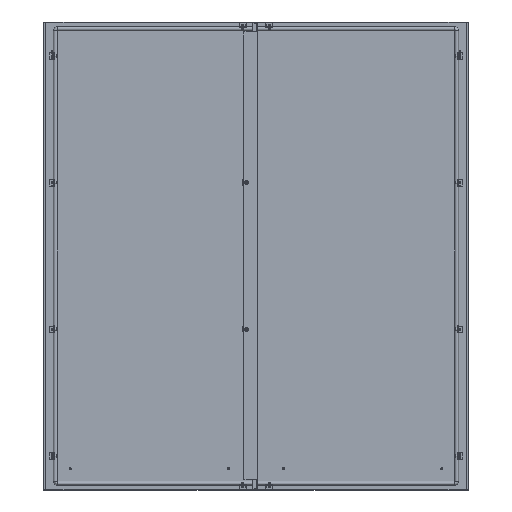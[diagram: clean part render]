
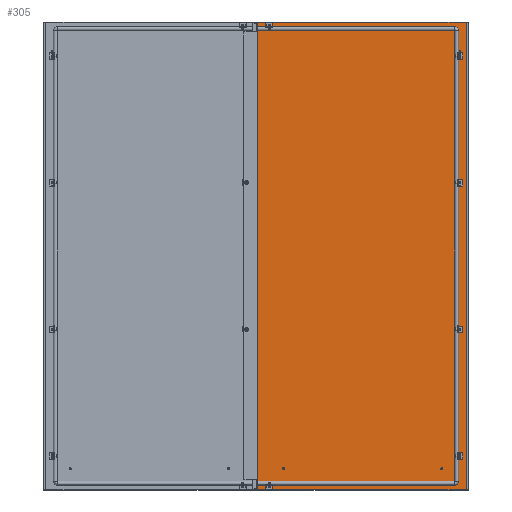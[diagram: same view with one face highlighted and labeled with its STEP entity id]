
A CAD part, top view. The second image highlights one B-rep face of the part: STEP entity #305.
In plain terms, the highlighted planar face has unit normal (0, 0, 1) as drawn and (0, 0, -1) by its records, which use the part's own axes.
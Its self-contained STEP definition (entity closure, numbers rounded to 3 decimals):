
#305 = ADVANCED_FACE('',(#306,#317,#328,#339,#350,#361,#372),#470,.T.);
#306 = FACE_BOUND('',#307,.T.);
#307 = EDGE_LOOP('',(#308));
#308 = ORIENTED_EDGE('',*,*,#309,.T.);
#309 = EDGE_CURVE('',#310,#310,#312,.T.);
#310 = VERTEX_POINT('',#311);
#311 = CARTESIAN_POINT('',(369.25,-750.,-1.5));
#312 = CIRCLE('',#313,4.75);
#313 = AXIS2_PLACEMENT_3D('',#314,#315,#316);
#314 = CARTESIAN_POINT('',(364.5,-750.,-1.5));
#315 = DIRECTION('',(0.,0.,1.));
#316 = DIRECTION('',(1.,0.,-0.));
#317 = FACE_BOUND('',#318,.T.);
#318 = EDGE_LOOP('',(#319));
#319 = ORIENTED_EDGE('',*,*,#320,.T.);
#320 = EDGE_CURVE('',#321,#321,#323,.T.);
#321 = VERTEX_POINT('',#322);
#322 = CARTESIAN_POINT('',(369.25,-275.,-1.5));
#323 = CIRCLE('',#324,4.75);
#324 = AXIS2_PLACEMENT_3D('',#325,#326,#327);
#325 = CARTESIAN_POINT('',(364.5,-275.,-1.5));
#326 = DIRECTION('',(0.,0.,1.));
#327 = DIRECTION('',(1.,0.,-0.));
#328 = FACE_BOUND('',#329,.T.);
#329 = EDGE_LOOP('',(#330));
#330 = ORIENTED_EDGE('',*,*,#331,.F.);
#331 = EDGE_CURVE('',#332,#332,#334,.T.);
#332 = VERTEX_POINT('',#333);
#333 = CARTESIAN_POINT('',(369.25,750.,-1.5));
#334 = CIRCLE('',#335,4.75);
#335 = AXIS2_PLACEMENT_3D('',#336,#337,#338);
#336 = CARTESIAN_POINT('',(364.5,750.,-1.5));
#337 = DIRECTION('',(0.,0.,-1.));
#338 = DIRECTION('',(1.,0.,0.));
#339 = FACE_BOUND('',#340,.T.);
#340 = EDGE_LOOP('',(#341));
#341 = ORIENTED_EDGE('',*,*,#342,.F.);
#342 = EDGE_CURVE('',#343,#343,#345,.T.);
#343 = VERTEX_POINT('',#344);
#344 = CARTESIAN_POINT('',(369.25,275.,-1.5));
#345 = CIRCLE('',#346,4.75);
#346 = AXIS2_PLACEMENT_3D('',#347,#348,#349);
#347 = CARTESIAN_POINT('',(364.5,275.,-1.5));
#348 = DIRECTION('',(0.,0.,-1.));
#349 = DIRECTION('',(1.,0.,0.));
#350 = FACE_BOUND('',#351,.T.);
#351 = EDGE_LOOP('',(#352));
#352 = ORIENTED_EDGE('',*,*,#353,.T.);
#353 = EDGE_CURVE('',#354,#354,#356,.T.);
#354 = VERTEX_POINT('',#355);
#355 = CARTESIAN_POINT('',(-354.75,864.5,-1.5));
#356 = CIRCLE('',#357,4.75);
#357 = AXIS2_PLACEMENT_3D('',#358,#359,#360);
#358 = CARTESIAN_POINT('',(-350.,864.5,-1.5));
#359 = DIRECTION('',(0.,0.,1.));
#360 = DIRECTION('',(-1.,0.,0.));
#361 = FACE_BOUND('',#362,.T.);
#362 = EDGE_LOOP('',(#363));
#363 = ORIENTED_EDGE('',*,*,#364,.T.);
#364 = EDGE_CURVE('',#365,#365,#367,.T.);
#365 = VERTEX_POINT('',#366);
#366 = CARTESIAN_POINT('',(-345.25,-864.5,-1.5));
#367 = CIRCLE('',#368,4.75);
#368 = AXIS2_PLACEMENT_3D('',#369,#370,#371);
#369 = CARTESIAN_POINT('',(-350.,-864.5,-1.5));
#370 = DIRECTION('',(0.,0.,1.));
#371 = DIRECTION('',(1.,0.,-0.));
#372 = FACE_BOUND('',#373,.T.);
#373 = EDGE_LOOP('',(#374,#384,#392,#400,#408,#416,#424,#432,#440,#448,
    #456,#464));
#374 = ORIENTED_EDGE('',*,*,#375,.F.);
#375 = EDGE_CURVE('',#376,#378,#380,.T.);
#376 = VERTEX_POINT('',#377);
#377 = CARTESIAN_POINT('',(-395.3,-876.,-1.5));
#378 = VERTEX_POINT('',#379);
#379 = CARTESIAN_POINT('',(395.3,-876.,-1.5));
#380 = LINE('',#381,#382);
#381 = CARTESIAN_POINT('',(0.,-876.,-1.5));
#382 = VECTOR('',#383,1.);
#383 = DIRECTION('',(1.,0.,0.));
#384 = ORIENTED_EDGE('',*,*,#385,.F.);
#385 = EDGE_CURVE('',#386,#376,#388,.T.);
#386 = VERTEX_POINT('',#387);
#387 = CARTESIAN_POINT('',(-395.3,-877.5,-1.5));
#388 = LINE('',#389,#390);
#389 = CARTESIAN_POINT('',(-395.3,0.,-1.5));
#390 = VECTOR('',#391,1.);
#391 = DIRECTION('',(0.,1.,0.));
#392 = ORIENTED_EDGE('',*,*,#393,.F.);
#393 = EDGE_CURVE('',#394,#386,#396,.T.);
#394 = VERTEX_POINT('',#395);
#395 = CARTESIAN_POINT('',(-395.5,-877.5,-1.5));
#396 = LINE('',#397,#398);
#397 = CARTESIAN_POINT('',(0.,-877.5,-1.5));
#398 = VECTOR('',#399,1.);
#399 = DIRECTION('',(1.,0.,0.));
#400 = ORIENTED_EDGE('',*,*,#401,.T.);
#401 = EDGE_CURVE('',#394,#402,#404,.T.);
#402 = VERTEX_POINT('',#403);
#403 = CARTESIAN_POINT('',(-395.5,877.5,-1.5));
#404 = LINE('',#405,#406);
#405 = CARTESIAN_POINT('',(-395.5,0.,-1.5));
#406 = VECTOR('',#407,1.);
#407 = DIRECTION('',(0.,1.,0.));
#408 = ORIENTED_EDGE('',*,*,#409,.F.);
#409 = EDGE_CURVE('',#410,#402,#412,.T.);
#410 = VERTEX_POINT('',#411);
#411 = CARTESIAN_POINT('',(-395.3,877.5,-1.5));
#412 = LINE('',#413,#414);
#413 = CARTESIAN_POINT('',(0.,877.5,-1.5));
#414 = VECTOR('',#415,1.);
#415 = DIRECTION('',(-1.,0.,0.));
#416 = ORIENTED_EDGE('',*,*,#417,.T.);
#417 = EDGE_CURVE('',#410,#418,#420,.T.);
#418 = VERTEX_POINT('',#419);
#419 = CARTESIAN_POINT('',(-395.3,876.,-1.5));
#420 = LINE('',#421,#422);
#421 = CARTESIAN_POINT('',(-395.3,0.,-1.5));
#422 = VECTOR('',#423,1.);
#423 = DIRECTION('',(0.,-1.,0.));
#424 = ORIENTED_EDGE('',*,*,#425,.F.);
#425 = EDGE_CURVE('',#426,#418,#428,.T.);
#426 = VERTEX_POINT('',#427);
#427 = CARTESIAN_POINT('',(395.3,876.,-1.5));
#428 = LINE('',#429,#430);
#429 = CARTESIAN_POINT('',(0.,876.,-1.5));
#430 = VECTOR('',#431,1.);
#431 = DIRECTION('',(-1.,0.,0.));
#432 = ORIENTED_EDGE('',*,*,#433,.F.);
#433 = EDGE_CURVE('',#434,#426,#436,.T.);
#434 = VERTEX_POINT('',#435);
#435 = CARTESIAN_POINT('',(395.3,877.5,-1.5));
#436 = LINE('',#437,#438);
#437 = CARTESIAN_POINT('',(395.3,0.,
    -1.5));
#438 = VECTOR('',#439,1.);
#439 = DIRECTION('',(0.,-1.,0.));
#440 = ORIENTED_EDGE('',*,*,#441,.F.);
#441 = EDGE_CURVE('',#442,#434,#444,.T.);
#442 = VERTEX_POINT('',#443);
#443 = CARTESIAN_POINT('',(395.5,877.5,-1.5));
#444 = LINE('',#445,#446);
#445 = CARTESIAN_POINT('',(0.,877.5,-1.5));
#446 = VECTOR('',#447,1.);
#447 = DIRECTION('',(-1.,0.,0.));
#448 = ORIENTED_EDGE('',*,*,#449,.T.);
#449 = EDGE_CURVE('',#442,#450,#452,.T.);
#450 = VERTEX_POINT('',#451);
#451 = CARTESIAN_POINT('',(395.5,-877.5,-1.5));
#452 = LINE('',#453,#454);
#453 = CARTESIAN_POINT('',(395.5,0.,
    -1.5));
#454 = VECTOR('',#455,1.);
#455 = DIRECTION('',(0.,-1.,0.));
#456 = ORIENTED_EDGE('',*,*,#457,.F.);
#457 = EDGE_CURVE('',#458,#450,#460,.T.);
#458 = VERTEX_POINT('',#459);
#459 = CARTESIAN_POINT('',(395.3,-877.5,-1.5));
#460 = LINE('',#461,#462);
#461 = CARTESIAN_POINT('',(0.,-877.5,-1.5));
#462 = VECTOR('',#463,1.);
#463 = DIRECTION('',(1.,0.,0.));
#464 = ORIENTED_EDGE('',*,*,#465,.T.);
#465 = EDGE_CURVE('',#458,#378,#466,.T.);
#466 = LINE('',#467,#468);
#467 = CARTESIAN_POINT('',(395.3,0.,
    -1.5));
#468 = VECTOR('',#469,1.);
#469 = DIRECTION('',(0.,1.,0.));
#470 = PLANE('',#471);
#471 = AXIS2_PLACEMENT_3D('',#472,#473,#474);
#472 = CARTESIAN_POINT('',(0.,0.,
    -1.5));
#473 = DIRECTION('',(0.,0.,-1.));
#474 = DIRECTION('',(-1.,0.,0.));
